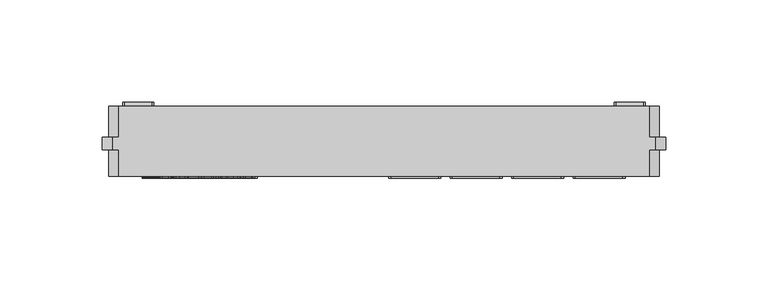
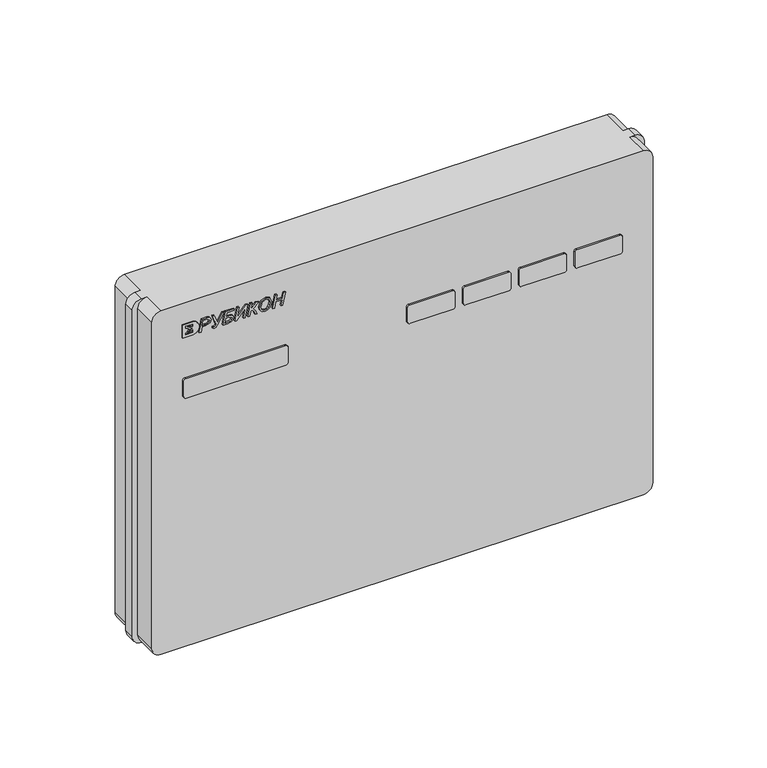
"""IFC4 building model written with IfcOpenShell, lengths in millimetres: alarm geometry, ППД 01_тип модель : ППД 01."""

from ifc_helpers import new_model, si_unit, point, frame, frame_2d, origin, place, context, project, spatial, polyline, circle_curve, trimmed, segment, composite_curve, outline, extrude, source, transform, mapped, element, save
from ifc_brep_helpers import plane_surface, cylinder_surface, advanced_brep


def alarm_83ac3c54(model_context):
    return source(origin(), model_context, "Body", "SolidModel", [
        extrude(outline(composite_curve([segment(polyline([(-52.1038728, -61.8547243), (-43.765464, -61.8547243)]), True, "CONTINUOUS"), segment(trimmed(circle_curve(frame_2d((-43.7985577, -63.2194281)), 1.365105), [point((-43.765464, -61.8547243))], [point((-42.4346684, -63.2770283))], False, "CARTESIAN"), True, "CONTINUOUS"), segment(polyline([(-42.4346684, -63.2770283), (-42.4346684, -116.5477186)]), True, "CONTINUOUS"), segment(trimmed(circle_curve(frame_2d((-43.7985577, -116.6053188)), 1.365105), [point((-42.4346684, -116.5477186))], [point((-43.765464, -117.9700226))], False, "CARTESIAN"), True, "CONTINUOUS"), segment(polyline([(-43.765464, -117.9700226), (-52.1038728, -117.9700226)]), True, "CONTINUOUS"), segment(trimmed(circle_curve(frame_2d((-52.0227494, -116.5603792)), 1.4119758), [point((-52.1038728, -117.9700226))], [point((-53.4346684, -116.5477186))], False, "CARTESIAN"), True, "CONTINUOUS"), segment(polyline([(-53.4346684, -116.5477186), (-53.4346684, -63.2770283)]), True, "CONTINUOUS"), segment(trimmed(circle_curve(frame_2d((-52.0707791, -63.2194281)), 1.365105), [point((-53.4346684, -63.2770283))], [point((-52.1038728, -61.8547243))], False, "CARTESIAN"), True, "CONTINUOUS")], self_intersect=False)), frame((0.0, -37.0, 0.0), z_axis=(0.0, 1.0, 0.0), x_axis=(0.0, 0.0, 1.0)), (0.0, 0.0, 1.0), 1.0),
        extrude(outline(composite_curve([segment(polyline([(-52.1038728, 27.7612757), (-44.0202341, 27.7612757)]), True, "CONTINUOUS"), segment(trimmed(circle_curve(frame_2d((-43.9374707, 26.5586381)), 1.205482), [point((-44.0202341, 27.7612757))], [point((-42.7346684, 26.6389717))], False, "CARTESIAN"), True, "CONTINUOUS"), segment(polyline([(-42.7346684, 26.6389717), (-42.7346684, 3.4452053)]), True, "CONTINUOUS"), segment(trimmed(circle_curve(frame_2d((-43.9018777, 3.5226789)), 1.1697777), [point((-42.7346684, 3.4452053))], [point((-43.7621551, 2.3612757))], False, "CARTESIAN"), True, "CONTINUOUS"), segment(polyline([(-43.7621551, 2.3612757), (-52.1038728, 2.3612757)]), True, "CONTINUOUS"), segment(trimmed(circle_curve(frame_2d((-51.9995093, 3.4916561)), 1.1351879), [point((-52.1038728, 2.3612757))], [point((-53.1346684, 3.4835797))], False, "CARTESIAN"), True, "CONTINUOUS"), segment(polyline([(-53.1346684, 3.4835797), (-53.1346684, 26.77742)]), True, "CONTINUOUS"), segment(trimmed(circle_curve(frame_2d((-52.0252646, 26.6470018)), 1.1170432), [point((-53.1346684, 26.77742))], [point((-52.1038728, 27.7612757))], False, "CARTESIAN"), True, "CONTINUOUS")], self_intersect=False)), frame((0.0, -37.0, 0.0), z_axis=(0.0, 1.0, 0.0), x_axis=(0.0, 0.0, 1.0)), (0.0, 0.0, 1.0), 1.0),
        extrude(outline(composite_curve([segment(polyline([(-52.1038728, 57.7332757), (-44.0202341, 57.7332757)]), True, "CONTINUOUS"), segment(trimmed(circle_curve(frame_2d((-43.9374707, 56.5306381)), 1.205482), [point((-44.0202341, 57.7332757))], [point((-42.7346684, 56.6109717))], False, "CARTESIAN"), True, "CONTINUOUS"), segment(polyline([(-42.7346684, 56.6109717), (-42.7346684, 33.4172053)]), True, "CONTINUOUS"), segment(trimmed(circle_curve(frame_2d((-43.9018777, 33.4946789)), 1.1697777), [point((-42.7346684, 33.4172053))], [point((-43.7621551, 32.3332757))], False, "CARTESIAN"), True, "CONTINUOUS"), segment(polyline([(-43.7621551, 32.3332757), (-52.1038728, 32.3332757)]), True, "CONTINUOUS"), segment(trimmed(circle_curve(frame_2d((-51.9995093, 33.4636561)), 1.1351879), [point((-52.1038728, 32.3332757))], [point((-53.1346684, 33.4555797))], False, "CARTESIAN"), True, "CONTINUOUS"), segment(polyline([(-53.1346684, 33.4555797), (-53.1346684, 56.74942)]), True, "CONTINUOUS"), segment(trimmed(circle_curve(frame_2d((-52.0252646, 56.6190018)), 1.1170432), [point((-53.1346684, 56.74942))], [point((-52.1038728, 57.7332757))], False, "CARTESIAN"), True, "CONTINUOUS")], self_intersect=False)), frame((0.0, -37.0, 0.0), z_axis=(0.0, 1.0, 0.0), x_axis=(0.0, 0.0, 1.0)), (0.0, 0.0, 1.0), 1.0),
        extrude(outline(composite_curve([segment(polyline([(-52.1038728, 87.7052757), (-44.0202341, 87.7052757)]), True, "CONTINUOUS"), segment(trimmed(circle_curve(frame_2d((-43.9374707, 86.5026381)), 1.205482), [point((-44.0202341, 87.7052757))], [point((-42.7346684, 86.5829717))], False, "CARTESIAN"), True, "CONTINUOUS"), segment(polyline([(-42.7346684, 86.5829717), (-42.7346684, 63.3892053)]), True, "CONTINUOUS"), segment(trimmed(circle_curve(frame_2d((-43.9018777, 63.4666789)), 1.1697777), [point((-42.7346684, 63.3892053))], [point((-43.7621551, 62.3052757))], False, "CARTESIAN"), True, "CONTINUOUS"), segment(polyline([(-43.7621551, 62.3052757), (-52.1038728, 62.3052757)]), True, "CONTINUOUS"), segment(trimmed(circle_curve(frame_2d((-51.9995093, 63.4356561)), 1.1351879), [point((-52.1038728, 62.3052757))], [point((-53.1346684, 63.4275797))], False, "CARTESIAN"), True, "CONTINUOUS"), segment(polyline([(-53.1346684, 63.4275797), (-53.1346684, 86.72142)]), True, "CONTINUOUS"), segment(trimmed(circle_curve(frame_2d((-52.0252646, 86.5910018)), 1.1170432), [point((-53.1346684, 86.72142))], [point((-52.1038728, 87.7052757))], False, "CARTESIAN"), True, "CONTINUOUS")], self_intersect=False)), frame((0.0, -37.0, 0.0), z_axis=(0.0, 1.0, 0.0), x_axis=(0.0, 0.0, 1.0)), (0.0, 0.0, 1.0), 1.0),
        extrude(outline(composite_curve([segment(polyline([(-43.7626868, 92.3156501), (-52.1044045, 92.3156501)]), True, "CONTINUOUS"), segment(trimmed(circle_curve(frame_2d((-52.000041, 93.4460304)), 1.1351879), [point((-52.1044045, 92.3156501))], [point((-53.1352001, 93.4379541))], False, "CARTESIAN"), True, "CONTINUOUS"), segment(polyline([(-53.1352001, 93.4379541), (-53.1352001, 116.7317943)]), True, "CONTINUOUS"), segment(trimmed(circle_curve(frame_2d((-52.0257964, 116.6013762)), 1.1170432), [point((-53.1352001, 116.7317943))], [point((-52.1044045, 117.7156501))], False, "CARTESIAN"), True, "CONTINUOUS"), segment(polyline([(-52.1044045, 117.7156501), (-44.0207659, 117.7156501)]), True, "CONTINUOUS"), segment(trimmed(circle_curve(frame_2d((-43.9380025, 116.5130125)), 1.205482), [point((-44.0207659, 117.7156501))], [point((-42.7352001, 116.5933461))], False, "CARTESIAN"), True, "CONTINUOUS"), segment(polyline([(-42.7352001, 116.5933461), (-42.7352001, 93.3995797)]), True, "CONTINUOUS"), segment(trimmed(circle_curve(frame_2d((-43.9024095, 93.4770533)), 1.1697777), [point((-42.7352001, 93.3995797))], [point((-43.7626868, 92.3156501))], False, "CARTESIAN"), True, "CONTINUOUS")], self_intersect=False)), frame((0.0, -37.0, 0.0), z_axis=(0.0, 1.0, 0.0), x_axis=(0.0, 0.0, 1.0)), (0.0, 0.0, 1.0), 1.0),
        extrude(outline(polyline([(-19.0907602, -109.4507262), (-19.0907602, -108.5562824), (-16.2340339, -107.9794435), (-16.2340339, -106.2180245), (-15.4142702, -103.7046547), (-14.6709033, -103.255716), (-13.784185, -103.078029), (-12.8330874, -103.3269625), (-12.2339303, -103.9570217), (-12.0588185, -105.0986822), (-12.0588185, -108.0292302), (-19.0907602, -109.4507262)]), holes=[polyline([(-15.4649152, -107.8232163), (-12.8279371, -107.2892969), (-12.8279371, -105.4437555), (-13.8219542, -103.9570217), (-14.67262, -104.2111056), (-15.269202, -104.8952435), (-15.4649152, -106.2437762), (-15.4649152, -107.8232163)])]), frame((0.0, -36.8, 0.0), z_axis=(0.0, 1.0, 0.0), x_axis=(0.0, 0.0, 1.0)), (0.0, 0.0, 1.0), 0.8),
        extrude(outline(polyline([(-12.0588185, -102.3089104), (-17.6675474, -100.4736698), (-18.4315156, -101.3492289), (-18.3164912, -102.1406657), (-19.1353965, -102.0531098), (-19.2006343, -101.2685401), (-18.8993389, -100.491696), (-18.0315053, -99.8024077), (-12.0588185, -96.0460873), (-12.0588185, -96.9353807), (-16.5258869, -99.7268693), (-12.0588185, -101.3852813), (-12.0588185, -102.3089104)])), frame((0.0, -36.8, 0.0), z_axis=(0.0, 1.0, 0.0), x_axis=(0.0, 0.0, 1.0)), (0.0, 0.0, 1.0), 0.8),
        extrude(outline(polyline([(-12.0588185, -95.2855526), (-19.0907602, -96.7053319), (-19.0907602, -94.3121369), (-18.8495522, -92.4013578), (-18.0194878, -91.4004735), (-16.7250337, -90.9918792), (-15.7378837, -91.2914578), (-15.1825045, -92.0339663), (-15.0254189, -93.5464518), (-15.0254189, -94.9919828), (-12.8279371, -94.5473361), (-12.8279371, -90.835652), (-12.0588185, -90.6622569), (-12.0588185, -95.2855526)]), holes=[polyline([(-18.3216416, -95.6563777), (-15.7945375, -95.1602275), (-15.7945375, -93.6340077), (-16.7610861, -91.8708719), (-17.6254862, -92.158433), (-18.175715, -92.9902142), (-18.3216416, -94.8100038), (-18.3216416, -95.6563777)])]), frame((0.0, -36.8, 0.0), z_axis=(0.0, 1.0, 0.0), x_axis=(0.0, 0.0, 1.0)), (0.0, 0.0, 1.0), 0.8),
        extrude(outline(polyline([(-12.0588185, -88.9128554), (-19.0907602, -90.3326347), (-19.0907602, -89.4570755), (-13.5198005, -84.5934303), (-19.0907602, -85.7179229), (-19.0907602, -84.825196), (-12.0588185, -83.4054167), (-12.0588185, -84.2758255), (-17.6366453, -89.1463379), (-12.0588185, -88.0201285), (-12.0588185, -88.9128554)])), frame((0.0, -36.8, 0.0), z_axis=(0.0, 1.0, 0.0), x_axis=(0.0, 0.0, 1.0)), (0.0, 0.0, 1.0), 0.8),
        extrude(outline(polyline([(-12.0588185, -81.8809137), (-19.0907602, -83.300693), (-19.0907602, -82.407966), (-15.7945375, -81.7418543), (-16.1464779, -80.8422602), (-17.449516, -80.1057605), (-19.0907602, -79.4035964), (-19.0907602, -78.466233), (-17.1456454, -79.2971558), (-15.4357299, -80.4920366), (-14.9498804, -79.6696977), (-13.5730208, -78.7529357), (-12.7558322, -77.3674922), (-12.4296435, -78.9658168), (-13.5678704, -79.7091837), (-15.0254189, -81.6096621), (-12.0588185, -80.9881867), (-12.0588185, -81.8809137)])), frame((0.0, -36.8, 0.0), z_axis=(0.0, 1.0, 0.0), x_axis=(0.0, 0.0, 1.0)), (0.0, 0.0, 1.0), 0.8),
        extrude(outline(polyline([(-16.1447612, -77.147744), (-17.6769897, -76.7958035), (-18.7989071, -75.7605836), (-19.2006343, -74.2463813), (-18.855561, -72.7424797), (-18.1216364, -71.740737), (-16.991135, -70.9656097), (-15.0923734, -70.5552986), (-12.8030437, -71.3707704), (-11.9489444, -73.4806962), (-13.1086311, -76.07733), (-16.1447612, -77.147744)]), holes=[polyline([(-16.1911143, -76.2687513), (-13.6605767, -75.4240942), (-12.718063, -73.4738291), (-13.3421135, -72.0222894), (-15.0151182, -71.4342913), (-16.3327489, -71.6574731), (-17.4598167, -72.2669309), (-18.1748566, -73.1433485), (-18.4315156, -74.1759932), (-18.1388042, -75.2464072), (-17.3284828, -76.0120923), (-16.1911143, -76.2687513)])]), frame((0.0, -36.8, 0.0), z_axis=(0.0, 1.0, 0.0), x_axis=(0.0, 0.0, 1.0)), (0.0, 0.0, 1.0), 0.8),
        extrude(outline(polyline([(-19.0907602, -70.0059282), (-19.0907602, -69.1132012), (-15.7945375, -68.443656), (-15.7945375, -64.8281117), (-19.0907602, -65.5010905), (-19.0907602, -64.6083635), (-12.0588185, -63.1731333), (-12.0588185, -64.0658602), (-15.0254189, -64.6718845), (-15.0254189, -68.2874287), (-12.0588185, -67.684838), (-12.0588185, -68.577565), (-19.0907602, -70.0059282)])), frame((0.0, -36.8, 0.0), z_axis=(0.0, 1.0, 0.0), x_axis=(0.0, 0.0, 1.0)), (0.0, 0.0, 1.0), 0.8),
        advanced_brep(
        [(129.5, -36.0, -195.0), (134.5, -36.0, -190.0), (134.5, -36.0, -5.0), (129.5, -36.0, 0.0), (-129.5, -36.0, 0.0), (-134.5, -36.0, -5.0), (-134.5, -36.0, -190.0), (-129.5, -36.0, -195.0), (-112.4716966, -36.0, -19.298862), (-118.1052299, -36.0, -19.298862), (-118.1052299, -36.0, -11.8596729), (-112.4716966, -36.0, -11.8596729), (-116.7377362, -36.0, -13.0141826), (-116.7377362, -36.0, -13.9823656), (-114.6791811, -36.0, -15.4148536), (-116.7377362, -36.0, -16.8473417), (-116.7377362, -36.0, -17.8155247), (-112.9174283, -36.0, -17.8155247), (-112.8236148, -36.0, -16.3683234), (-114.1904638, -36.0, -17.0719363), (-115.4726115, -36.0, -17.0719363), (-113.109548, -36.0, -15.4148536), (-115.4726115, -36.0, -13.757771), (-114.1904638, -36.0, -13.757771), (-112.8328004, -36.0, -14.442342), (-112.9174283, -36.0, -13.0141826), (129.5, -2.0, -195.0), (-129.5, -2.0, -195.0), (-134.5, -2.0, -190.0), (-134.5, -2.0, -5.0), (-129.5, -2.0, 0.0), (129.5, -2.0, 0.0), (134.5, -2.0, -5.0), (134.5, -2.0, -190.0), (134.5, -23.0, -190.0), (134.5, -23.0, -5.0), (134.5, -17.0, -5.0), (134.5, -17.0, -190.0), (129.5, -23.0, 0.0), (132.5, -23.0, 0.0), (132.5, -17.0, 0.0), (129.5, -17.0, 0.0), (-129.5, -17.0, 0.0), (-132.5, -17.0, 0.0), (-132.5, -23.0, 0.0), (-129.5, -23.0, 0.0), (-134.5, -23.0, -5.0), (-134.5, -23.0, -190.0), (-134.5, -17.0, -190.0), (-134.5, -17.0, -5.0), (-129.5, -23.0, -195.0), (-132.5, -23.0, -195.0), (-132.5, -17.0, -195.0), (-129.5, -17.0, -195.0), (129.5, -17.0, -195.0), (132.5, -17.0, -195.0), (132.5, -23.0, -195.0), (129.5, -23.0, -195.0), (-118.1052299, -36.5, -19.298862), (-112.4716966, -36.5, -19.298862), (-112.4716966, -36.5, -11.8596729), (-118.1052299, -36.5, -11.8596729), (-116.7377362, -36.5, -13.9823656), (-116.7377362, -36.5, -13.0141826), (-112.9174283, -36.5, -13.0141826), (-112.8328004, -36.5, -14.442342), (-114.1904638, -36.5, -13.757771), (-115.4726115, -36.5, -13.757771), (-113.109548, -36.5, -15.4148536), (-115.4726115, -36.5, -17.0719363), (-114.1904638, -36.5, -17.0719363), (-112.8236148, -36.5, -16.3683234), (-112.9174283, -36.5, -17.8155247), (-116.7377362, -36.5, -17.8155247), (-116.7377362, -36.5, -16.8473417), (-114.6791811, -36.5, -15.4148536), (-137.5, -23.0, -5.0), (-137.5, -23.0, -190.0), (137.5, -23.0, -190.0), (137.5, -23.0, -5.0), (137.5, -17.0, -5.0), (137.5, -17.0, -190.0), (-137.5, -17.0, -190.0), (-137.5, -17.0, -5.0)],
        [
            (0, 1, circle_curve(frame((129.5, -36.0, -190.0), z_axis=(0.0, -1.0, 0.0), x_axis=(1.0, 0.0, 0.0)), 5.0)),
            (1, 2),
            (2, 3, circle_curve(frame((129.5, -36.0, -5.0), z_axis=(0.0, -1.0, 0.0), x_axis=(1.0, 0.0, 0.0)), 5.0)),
            (3, 4),
            (4, 5, circle_curve(frame((-129.5, -36.0, -5.0), z_axis=(0.0, -1.0, 0.0), x_axis=(1.0, 0.0, 0.0)), 5.0)),
            (5, 6),
            (6, 7, circle_curve(frame((-129.5, -36.0, -190.0), z_axis=(0.0, -1.0, 0.0), x_axis=(1.0, 0.0, 0.0)), 5.0)),
            (7, 0),
            (8, 9),
            (9, 10),
            (10, 11),
            (11, 8, circle_curve(frame((-113.2788563, -36.0, -15.5792675), z_axis=(0.0, 1.0, 0.0), x_axis=(0.21206641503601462, 0.0, 0.9772552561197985)), 3.8061648)),
            (12, 13),
            (13, 14),
            (14, 15),
            (15, 16),
            (16, 17),
            (17, 18),
            (18, 19),
            (19, 20),
            (20, 21),
            (21, 22),
            (22, 23),
            (23, 24),
            (24, 25),
            (25, 12),
            (26, 27),
            (27, 28, circle_curve(frame((-129.5, -2.0, -190.0), z_axis=(0.0, 1.0, 0.0), x_axis=(1.0, 0.0, 0.0)), 5.0)),
            (28, 29),
            (29, 30, circle_curve(frame((-129.5, -2.0, -5.0), z_axis=(0.0, 1.0, 0.0), x_axis=(1.0, 0.0, 0.0)), 5.0)),
            (30, 31),
            (31, 32, circle_curve(frame((129.5, -2.0, -5.0), z_axis=(0.0, 1.0, 0.0), x_axis=(1.0, 0.0, 0.0)), 5.0)),
            (32, 33),
            (33, 26, circle_curve(frame((129.5, -2.0, -190.0), z_axis=(0.0, 1.0, 0.0), x_axis=(1.0, 0.0, 0.0)), 5.0)),
            (1, 34),
            (34, 35),
            (35, 2),
            (32, 36),
            (36, 37),
            (37, 33),
            (3, 38),
            (38, 39),
            (39, 40),
            (40, 41),
            (41, 31),
            (30, 42),
            (42, 43),
            (43, 44),
            (44, 45),
            (45, 4),
            (5, 46),
            (46, 47),
            (47, 6),
            (28, 48),
            (48, 49),
            (49, 29),
            (7, 50),
            (50, 51),
            (51, 52),
            (52, 53),
            (53, 27),
            (26, 54),
            (54, 55),
            (55, 56),
            (56, 57),
            (57, 0),
            (57, 34, circle_curve(frame((129.5, -23.0, -190.0), z_axis=(0.0, -1.0, 0.0), x_axis=(1.0, 0.0, 0.0)), 5.0)),
            (37, 54, circle_curve(frame((129.5, -17.0, -190.0), z_axis=(0.0, 1.0, 0.0), x_axis=(1.0, 0.0, 0.0)), 5.0)),
            (35, 38, circle_curve(frame((129.5, -23.0, -5.0), z_axis=(0.0, -1.0, 0.0), x_axis=(1.0, 0.0, 0.0)), 5.0)),
            (41, 36, circle_curve(frame((129.5, -17.0, -5.0), z_axis=(0.0, 1.0, 0.0), x_axis=(1.0, 0.0, 0.0)), 5.0)),
            (45, 46, circle_curve(frame((-129.5, -23.0, -5.0), z_axis=(0.0, -1.0, 0.0), x_axis=(1.0, 0.0, 0.0)), 5.0)),
            (49, 42, circle_curve(frame((-129.5, -17.0, -5.0), z_axis=(0.0, 1.0, 0.0), x_axis=(1.0, 0.0, 0.0)), 5.0)),
            (47, 50, circle_curve(frame((-129.5, -23.0, -190.0), z_axis=(0.0, -1.0, 0.0), x_axis=(1.0, 0.0, 0.0)), 5.0)),
            (53, 48, circle_curve(frame((-129.5, -17.0, -190.0), z_axis=(0.0, 1.0, 0.0), x_axis=(1.0, 0.0, 0.0)), 5.0)),
            (58, 59),
            (59, 60, circle_curve(frame((-113.2788563, -36.5, -15.5792675), z_axis=(0.0, -1.0, 0.0), x_axis=(0.21206641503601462, 0.0, 0.9772552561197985)), 3.8061648)),
            (60, 61),
            (61, 58),
            (62, 63),
            (63, 64),
            (64, 65),
            (65, 66),
            (66, 67),
            (67, 68),
            (68, 69),
            (69, 70),
            (70, 71),
            (71, 72),
            (72, 73),
            (73, 74),
            (74, 75),
            (75, 62),
            (58, 9),
            (8, 59),
            (11, 60),
            (10, 61),
            (62, 13),
            (12, 63),
            (25, 64),
            (24, 65),
            (23, 66),
            (22, 67),
            (21, 68),
            (20, 69),
            (19, 70),
            (18, 71),
            (17, 72),
            (16, 73),
            (15, 74),
            (14, 75),
            (44, 76, circle_curve(frame((-132.5, -23.0, -5.0), z_axis=(0.0, -1.0, 0.0), x_axis=(1.0, 0.0, 0.0)), 5.0)),
            (76, 77),
            (77, 51, circle_curve(frame((-132.5, -23.0, -190.0), z_axis=(0.0, -1.0, 0.0), x_axis=(1.0, 0.0, 0.0)), 5.0)),
            (56, 78, circle_curve(frame((132.5, -23.0, -190.0), z_axis=(0.0, -1.0, 0.0), x_axis=(1.0, 0.0, 0.0)), 5.0)),
            (78, 79),
            (79, 39, circle_curve(frame((132.5, -23.0, -5.0), z_axis=(0.0, -1.0, 0.0), x_axis=(1.0, 0.0, 0.0)), 5.0)),
            (40, 80, circle_curve(frame((132.5, -17.0, -5.0), z_axis=(0.0, 1.0, 0.0), x_axis=(1.0, 0.0, 0.0)), 5.0)),
            (80, 81),
            (81, 55, circle_curve(frame((132.5, -17.0, -190.0), z_axis=(0.0, 1.0, 0.0), x_axis=(1.0, 0.0, 0.0)), 5.0)),
            (52, 82, circle_curve(frame((-132.5, -17.0, -190.0), z_axis=(0.0, 1.0, 0.0), x_axis=(1.0, 0.0, 0.0)), 5.0)),
            (82, 83),
            (83, 43, circle_curve(frame((-132.5, -17.0, -5.0), z_axis=(0.0, 1.0, 0.0), x_axis=(1.0, 0.0, 0.0)), 5.0)),
            (78, 81),
            (80, 79),
            (76, 83),
            (82, 77),
        ],
        [
            plane_surface(frame((134.5, -36.0, -190.0), z_axis=(0.0, -1.0, 0.0), x_axis=(0.0, 0.0, 1.0))),
            plane_surface(frame((134.5, -2.0, -190.0), z_axis=(0.0, 1.0, 0.0), x_axis=(0.0, 0.0, -1.0))),
            plane_surface(frame((134.5, -36.0, -190.0), z_axis=(1.0, 0.0, 0.0), x_axis=(0.0, 1.0, 0.0))),
            plane_surface(frame((129.5, -36.0, 0.0), z_axis=(0.0, 0.0, 1.0), x_axis=(0.0, 1.0, 0.0))),
            plane_surface(frame((-134.5, -36.0, -5.0), z_axis=(-1.0, 0.0, 0.0), x_axis=(0.0, 1.0, 0.0))),
            plane_surface(frame((-129.5, -36.0, -195.0), z_axis=(0.0, 0.0, -1.0), x_axis=(0.0, 1.0, 0.0))),
            cylinder_surface(frame((129.5, -2.0, -190.0), z_axis=(0.0, -1.0, 0.0), x_axis=(1.0, 0.0, 0.0)), 5.0),
            cylinder_surface(frame((129.5, -2.0, -5.0), z_axis=(0.0, -1.0, 0.0), x_axis=(1.0, 0.0, 0.0)), 5.0),
            cylinder_surface(frame((-129.5, -2.0, -5.0), z_axis=(0.0, -1.0, 0.0), x_axis=(1.0, 0.0, 0.0)), 5.0),
            cylinder_surface(frame((-129.5, -2.0, -190.0), z_axis=(0.0, -1.0, 0.0), x_axis=(1.0, 0.0, 0.0)), 5.0),
            plane_surface(frame((-110.7139711, -36.5, -19.298862), z_axis=(0.0, -1.0, 0.0), x_axis=(1.0, 0.0, 0.0))),
            plane_surface(frame((-118.1052299, -36.5, -19.298862), z_axis=(0.0, 0.0, -1.0), x_axis=(0.0, 1.0, 0.0))),
            cylinder_surface(frame((-113.2788563, -35.5, -15.5792675), z_axis=(0.0, -1.0000000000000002, 0.0), x_axis=(0.21206641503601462, 0.0, 0.9772552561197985)), 3.8061648),
            plane_surface(frame((-112.4716966, -36.5, -11.8596729), z_axis=(0.0, 0.0, 1.0), x_axis=(0.0, 1.0, 0.0))),
            plane_surface(frame((-118.1052299, -36.5, -11.8596729), z_axis=(-1.0, 0.0, 0.0), x_axis=(0.0, 1.0, 0.0))),
            plane_surface(frame((-116.7377362, -36.5, -13.9823656), z_axis=(1.0, 0.0, 0.0), x_axis=(0.0, 1.0, 0.0))),
            plane_surface(frame((-116.7377362, -36.5, -13.0141826), z_axis=(0.0, 0.0, -1.0), x_axis=(0.0, 1.0, 0.0))),
            plane_surface(frame((-112.9174283, -36.5, -13.0141826), z_axis=(-0.9982489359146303, 0.0, -0.059152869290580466), x_axis=(0.0, 1.0, 0.0))),
            plane_surface(frame((-112.8328004, -36.5, -14.442342), z_axis=(0.450230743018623, 0.0, 0.8929122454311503), x_axis=(0.0, 1.0, 0.0))),
            plane_surface(frame((-114.1904638, -36.5, -13.757771), z_axis=(0.0, 0.0, 1.0), x_axis=(0.0, 1.0, 0.0))),
            plane_surface(frame((-115.4726115, -36.5, -13.757771), z_axis=(-0.5741453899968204, 0.0, -0.818753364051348), x_axis=(0.0, 1.0, 0.0))),
            plane_surface(frame((-113.109548, -36.5, -15.4148536), z_axis=(-0.5741453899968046, 0.0, 0.818753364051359), x_axis=(0.0, 1.0, 0.0))),
            plane_surface(frame((-115.4726115, -36.5, -17.0719363), z_axis=(0.0, 0.0, -1.0), x_axis=(0.0, 1.0, 0.0))),
            plane_surface(frame((-114.1904638, -36.5, -17.0719363), z_axis=(0.4576885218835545, 0.0, -0.8891126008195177), x_axis=(0.0, 1.0, 0.0))),
            plane_surface(frame((-112.8236148, -36.5, -16.3683234), z_axis=(-0.9979055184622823, 0.0, 0.06468830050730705), x_axis=(0.0, 1.0, 0.0))),
            plane_surface(frame((-112.9174283, -36.5, -17.8155247), z_axis=(0.0, 0.0, 1.0), x_axis=(0.0, 1.0, 0.0))),
            plane_surface(frame((-116.7377362, -36.5, -17.8155247), z_axis=(1.0, 0.0, 0.0), x_axis=(0.0, 1.0, 0.0))),
            plane_surface(frame((-116.7377362, -36.5, -16.8473417), z_axis=(0.5711853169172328, 0.0, -0.8208211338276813), x_axis=(0.0, 1.0, 0.0))),
            plane_surface(frame((-114.6791811, -36.5, -15.4148536), z_axis=(0.5711853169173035, 0.0, 0.8208211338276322), x_axis=(0.0, 1.0, 0.0))),
            plane_surface(frame((-122.5, -23.0, 0.0), z_axis=(0.0, -1.0, 0.0), x_axis=(0.0, 0.0, 1.0))),
            plane_surface(frame((-122.5, -17.0, 0.0), z_axis=(0.0, 1.0, 0.0), x_axis=(0.0, 0.0, -1.0))),
            plane_surface(frame((137.5, -23.0, -190.0), z_axis=(1.0, 0.0, 0.0), x_axis=(0.0, 1.0, 0.0))),
            plane_surface(frame((-137.5, -23.0, -5.0), z_axis=(-1.0, 0.0, 0.0), x_axis=(0.0, 1.0, 0.0))),
            cylinder_surface(frame((132.5, 0.0, -190.0), z_axis=(0.0, -1.0, 0.0), x_axis=(1.0, 0.0, 0.0)), 5.0),
            cylinder_surface(frame((132.5, 0.0, -5.0), z_axis=(0.0, -1.0, 0.0), x_axis=(1.0, 0.0, 0.0)), 5.0),
            cylinder_surface(frame((-132.5, -17.0, -5.0), z_axis=(0.0, -1.0, 0.0), x_axis=(1.0, 0.0, 0.0)), 5.0),
            cylinder_surface(frame((-132.5, -17.0, -190.0), z_axis=(0.0, -1.0, 0.0), x_axis=(1.0, 0.0, 0.0)), 5.0),
        ],
        [
            (0, [[1, 2, 3, 4, 5, 6, 7, 8], [9, 10, 11, 12]]),
            (0, [[13, 14, 15, 16, 17, 18, 19, 20, 21, 22, 23, 24, 25, 26]]),
            (1, [[27, 28, 29, 30, 31, 32, 33, 34]]),
            (2, [[-2, 35, 36, 37]]),
            (2, [[-33, 38, 39, 40]]),
            (3, [[-4, 41, 42, 43, 44, 45, -31, 46, 47, 48, 49, 50]]),
            (4, [[-6, 51, 52, 53]]),
            (4, [[-29, 54, 55, 56]]),
            (5, [[-8, 57, 58, 59, 60, 61, -27, 62, 63, 64, 65, 66]]),
            (6, [[-1, -66, 67, -35]]),
            (6, [[-34, -40, 68, -62]]),
            (7, [[-3, -37, 69, -41]]),
            (7, [[-32, -45, 70, -38]]),
            (8, [[-5, -50, 71, -51]]),
            (8, [[-30, -56, 72, -46]]),
            (9, [[-7, -53, 73, -57]]),
            (9, [[-28, -61, 74, -54]]),
            (10, [[75, 76, 77, 78], [79, 80, 81, 82, 83, 84, 85, 86, 87, 88, 89, 90, 91, 92]]),
            (11, [[-75, 93, -9, 94]]),
            (12, [[-76, -94, -12, 95]]),
            (13, [[-77, -95, -11, 96]]),
            (14, [[-78, -96, -10, -93]]),
            (15, [[-79, 97, -13, 98]]),
            (16, [[-80, -98, -26, 99]]),
            (17, [[-81, -99, -25, 100]]),
            (18, [[-82, -100, -24, 101]]),
            (19, [[-83, -101, -23, 102]]),
            (20, [[-84, -102, -22, 103]]),
            (21, [[-85, -103, -21, 104]]),
            (22, [[-86, -104, -20, 105]]),
            (23, [[-87, -105, -19, 106]]),
            (24, [[-88, -106, -18, 107]]),
            (25, [[-89, -107, -17, 108]]),
            (26, [[-90, -108, -16, 109]]),
            (27, [[-91, -109, -15, 110]]),
            (28, [[-92, -110, -14, -97]]),
            (29, [[111, 112, 113, -58, -73, -52, -71, -49]]),
            (29, [[114, 115, 116, -42, -69, -36, -67, -65]]),
            (30, [[117, 118, 119, -63, -68, -39, -70, -44]]),
            (30, [[120, 121, 122, -47, -72, -55, -74, -60]]),
            (31, [[-115, 123, -118, 124]]),
            (32, [[-112, 125, -121, 126]]),
            (33, [[-114, -64, -119, -123]]),
            (34, [[-116, -124, -117, -43]]),
            (35, [[-111, -48, -122, -125]]),
            (36, [[-113, -126, -120, -59]]),
        ],
    ),
        extrude(outline(composite_curve([segment(trimmed(circle_curve(frame_2d((-24.9091741, -119.5)), 7.0), [point((-24.9091741, -112.5))], [point((-17.9091741, -119.5))], False, "CARTESIAN"), True, "CONTINUOUS"), segment(polyline([(-17.9091741, -119.5), (-17.9091741, -120.5)]), True, "CONTINUOUS"), segment(trimmed(circle_curve(frame_2d((-24.9091741, -120.5)), 7.0), [point((-17.9091741, -120.5))], [point((-24.9091741, -127.5))], False, "CARTESIAN"), True, "CONTINUOUS"), segment(polyline([(-24.9091741, -127.5), (-75.9091741, -127.5)]), True, "CONTINUOUS"), segment(trimmed(circle_curve(frame_2d((-75.9091741, -120.5)), 7.0), [point((-75.9091741, -127.5))], [point((-82.9091741, -120.5))], False, "CARTESIAN"), True, "CONTINUOUS"), segment(polyline([(-82.9091741, -120.5), (-82.9091741, -119.5)]), True, "CONTINUOUS"), segment(trimmed(circle_curve(frame_2d((-75.9091741, -119.5)), 7.0), [point((-82.9091741, -119.5))], [point((-75.9091741, -112.5))], False, "CARTESIAN"), True, "CONTINUOUS"), segment(polyline([(-75.9091741, -112.5), (-24.9091741, -112.5)]), True, "CONTINUOUS")], self_intersect=False), holes=[composite_curve([segment(trimmed(circle_curve(frame_2d((-33.0041507, -120.0145228)), 4.5), [point((-29.2624933, -117.5145228))], [point((-29.2624933, -122.5145228))], True, "CARTESIAN"), True, "CONTINUOUS"), segment(polyline([(-29.2624933, -122.5145228), (-25.0041507, -122.5145228)]), True, "CONTINUOUS"), segment(trimmed(circle_curve(frame_2d((-25.0041507, -120.0145228)), 2.5), [point((-25.0041507, -122.5145228))], [point((-25.0041507, -117.5145228))], True, "CARTESIAN"), True, "CONTINUOUS"), segment(polyline([(-25.0041507, -117.5145228), (-29.2624933, -117.5145228)]), True, "CONTINUOUS")], self_intersect=False)]), frame((0.0, -2.0, 0.0), z_axis=(0.0, 1.0, 0.0), x_axis=(0.0, 0.0, 1.0)), (0.0, 0.0, 1.0), 2.0),
        extrude(outline(composite_curve([segment(polyline([(-24.9091741, 112.5), (-75.9091741, 112.5)]), True, "CONTINUOUS"), segment(trimmed(circle_curve(frame_2d((-75.9091741, 119.5)), 7.0), [point((-75.9091741, 112.5))], [point((-82.9091741, 119.5))], False, "CARTESIAN"), True, "CONTINUOUS"), segment(polyline([(-82.9091741, 119.5), (-82.9091741, 120.5)]), True, "CONTINUOUS"), segment(trimmed(circle_curve(frame_2d((-75.9091741, 120.5)), 7.0), [point((-82.9091741, 120.5))], [point((-75.9091741, 127.5))], False, "CARTESIAN"), True, "CONTINUOUS"), segment(polyline([(-75.9091741, 127.5), (-24.9091741, 127.5)]), True, "CONTINUOUS"), segment(trimmed(circle_curve(frame_2d((-24.9091741, 120.5)), 7.0), [point((-24.9091741, 127.5))], [point((-17.9091741, 120.5))], False, "CARTESIAN"), True, "CONTINUOUS"), segment(polyline([(-17.9091741, 120.5), (-17.9091741, 119.5)]), True, "CONTINUOUS"), segment(trimmed(circle_curve(frame_2d((-24.9091741, 119.5)), 7.0), [point((-17.9091741, 119.5))], [point((-24.9091741, 112.5))], False, "CARTESIAN"), True, "CONTINUOUS")], self_intersect=False), holes=[composite_curve([segment(polyline([(-29.2624933, 117.5145228), (-25.0041507, 117.5145228)]), True, "CONTINUOUS"), segment(trimmed(circle_curve(frame_2d((-25.0041507, 120.0145228)), 2.5), [point((-25.0041507, 117.5145228))], [point((-25.0041507, 122.5145228))], True, "CARTESIAN"), True, "CONTINUOUS"), segment(polyline([(-25.0041507, 122.5145228), (-29.2624933, 122.5145228)]), True, "CONTINUOUS"), segment(trimmed(circle_curve(frame_2d((-33.0041507, 120.0145228)), 4.5), [point((-29.2624933, 122.5145228))], [point((-29.2624933, 117.5145228))], True, "CARTESIAN"), True, "CONTINUOUS")], self_intersect=False)]), frame((0.0, -2.0, 0.0), z_axis=(0.0, 1.0, 0.0), x_axis=(0.0, 0.0, 1.0)), (0.0, 0.0, 1.0), 2.0),
        extrude(outline(polyline([(126.4853012, -2.0), (113.4853012, -2.0), (113.4853012, 0.0), (126.4853012, 0.0), (126.4853012, -2.0)])), frame((0.0, 0.0, -15.8567316), z_axis=(0.0, 0.0, 1.0), x_axis=(1.0, 0.0, 0.0)), (0.0, 0.0, 1.0), 13.0),
        extrude(outline(polyline([(126.4853012, -2.0), (113.4853012, -2.0), (113.4853012, 0.0), (126.4853012, 0.0), (126.4853012, -2.0)])), frame((0.0, 0.0, -192.1432684), z_axis=(0.0, 0.0, 1.0), x_axis=(1.0, 0.0, 0.0)), (0.0, 0.0, 1.0), 13.0),
        extrude(outline(polyline([(-113.5145228, -2.0), (-126.5145228, -2.0), (-126.5145228, 0.0), (-113.5145228, 0.0), (-113.5145228, -2.0)])), frame((0.0, 0.0, -191.8526138), z_axis=(0.0, 0.0, 1.0), x_axis=(1.0, 0.0, 0.0)), (0.0, 0.0, 1.0), 13.0),
        extrude(outline(polyline([(-113.5145228, -2.0), (-126.5145228, -2.0), (-126.5145228, 0.0), (-113.5145228, 0.0), (-113.5145228, -2.0)])), frame((0.0, 0.0, -16.1473862), z_axis=(0.0, 0.0, 1.0), x_axis=(1.0, 0.0, 0.0)), (0.0, 0.0, 1.0), 13.0),
    ])


if __name__ == "__main__":
    model = new_model("IFC4")
    model_context = context("Model", 3, world=origin())
    ifc_project = project(units=[si_unit("LENGTHUNIT", "METRE", prefix="MILLI")], contexts=[model_context])
    site = spatial("IfcSite", under=ifc_project)
    building = spatial("IfcBuilding", under=site)
    placement = place(None, origin())
    alarm_shape = alarm_83ac3c54(model_context)
    element("IfcAlarm", 1, ObjectType="ППД 01_тип модель : ППД 01", at=placement, inside=building, context=model_context, shape_type="MappedRepresentation", body=[
        mapped(alarm_shape, transform((0.0, 0.0, 0.0), x_axis=(1.0, 0.0, 0.0), y_axis=(0.0, 1.0, 0.0), z_axis=(0.0, 0.0, 1.0))),
    ])
    save(model, "model.ifc")
